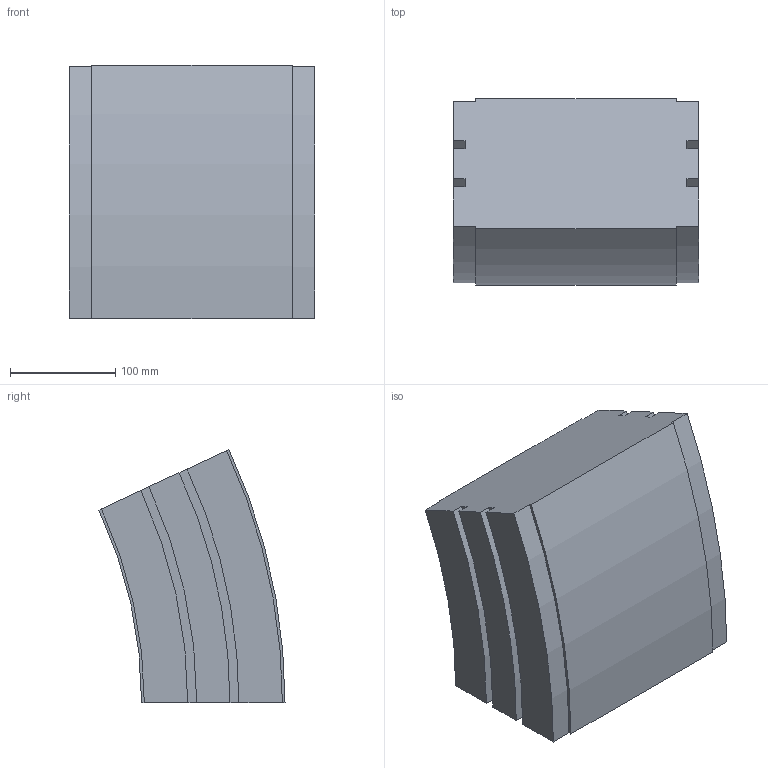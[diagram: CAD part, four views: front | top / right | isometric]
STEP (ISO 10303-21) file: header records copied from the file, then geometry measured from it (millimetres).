
FILE_DESCRIPTION (( 'STEP AP214' ), '1' );
FILE_NAME ('02.150V25.230.N FS-230-MTC-150 Bocht verticaal 25°.STEP', '2013-03-29T13:19:56', ( 'Gebruiker' ), ( '' ), 'SwSTEP 2.0', 'SolidWorks 2012', '' );
FILE_SCHEMA (( 'AUTOMOTIVE_DESIGN' ));
Length unit declared in the file: millimetre
Products named in the file (1): 02.150V25.230.N FS-230-MTC-150 Bocht verticaal 25°
Bounding box: 232.5 x 176.47 x 240.05 mm (x, y, z)
Volume: 6771004.8 mm3; surface area: 242059.1 mm2
Topology: 1 solids, 1 shells, 30 faces, 84 edges, 56 vertices
Faces by surface type: plane 16, cylinder 14
Entity records: 1010 total; most frequent: DIRECTION 174, CARTESIAN_POINT 171, ORIENTED_EDGE 168, EDGE_CURVE 84, AXIS2_PLACEMENT_3D 59, VERTEX_POINT 56, LINE 56, VECTOR 56
